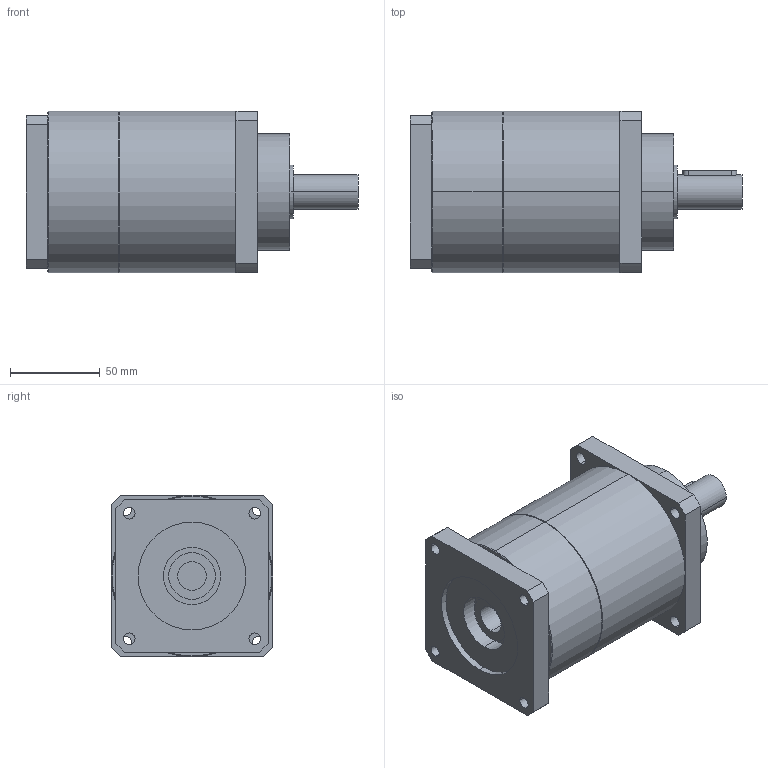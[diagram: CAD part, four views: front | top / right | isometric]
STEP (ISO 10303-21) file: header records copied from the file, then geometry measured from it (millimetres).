
FILE_DESCRIPTION(('CoCreate Modeling STEP Export'),'2;1');
FILE_NAME('GPT90_ig-9-12-16-20-25-28-35-40-50-70-100_19_B5T_15.87_P36.stp','2015-02-04T11:31:39',(''),(''),'CoCreate Modeling STEP processor for AP214 (Solid Model)','CoCreate Modeling 16.00C 25-Feb-2009 (C) Parametric Technology GmbH','');
FILE_SCHEMA(('AUTOMOTIVE_DESIGN { 1 0 10303 214 1 1 1 1 }'));
Length unit declared in the file: millimetre
Products named in the file (2): GPT90_ig-9-12-16-20-25-28-35-40-50-70-100_19_B5T_15.87_P36
Assembly tree (1 placements, depth 2):
  GPT90_ig-9-12-16-20-25-28-35-40-50-70-100_19_B5T_15.87_P36
    GPT90_ig-9-12-16-20-25-28-35-40-50-70-100_19_B5T_15.87_P36
Bounding box: 185 x 90 x 90 mm (x, y, z)
Volume: 896299.8 mm3; surface area: 67683.1 mm2
Topology: 1 solids, 1 shells, 84 faces, 225 edges, 152 vertices
Faces by surface type: cylinder 42, plane 38, cone 4
Entity records: 2707 total; most frequent: CARTESIAN_POINT 758, ORIENTED_EDGE 450, DIRECTION 322, EDGE_CURVE 225, VERTEX_POINT 152, AXIS2_PLACEMENT_3D 113, EDGE_LOOP 109, VECTOR 96
